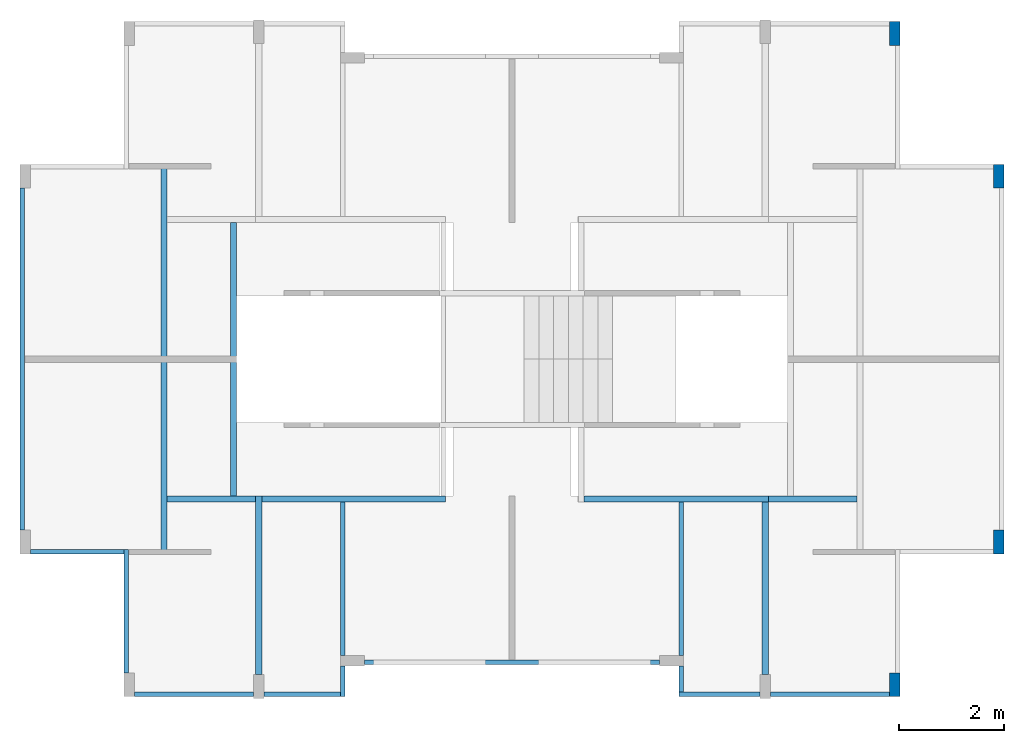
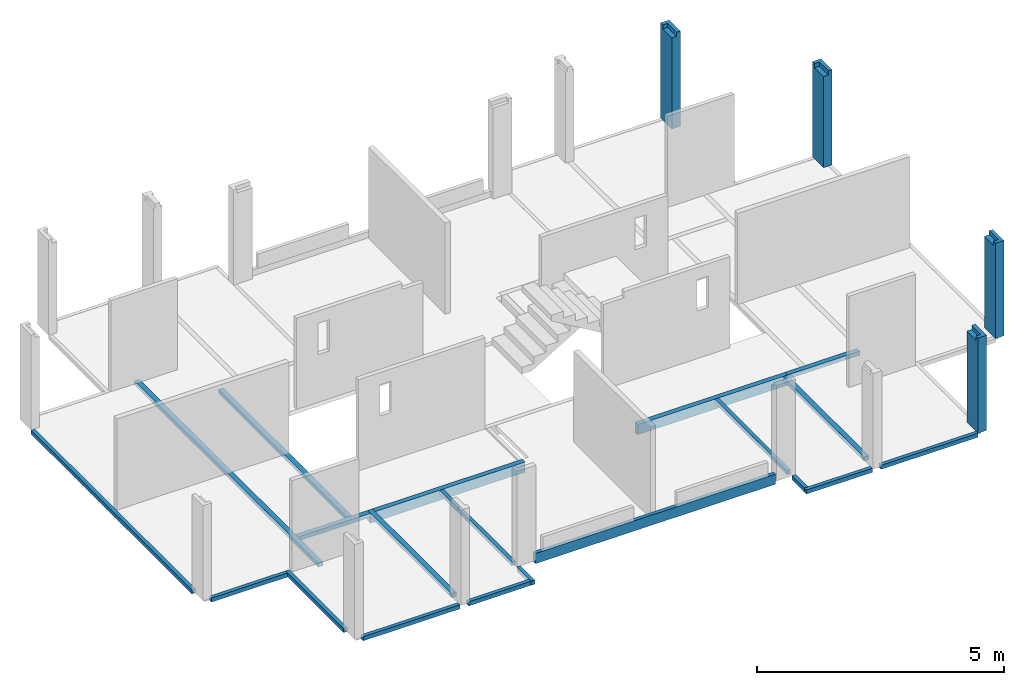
# One storey, part 1 of 6: 16 beams, 4 columns.
"""IFC4 building model written with IfcOpenShell, lengths in metres."""

from ifc_helpers import new_model, entity, si_unit, converted_unit, derived_unit, direction, frame, origin, place, context, subcontext, project, spatial, indexed_curve, outline, extrude, polygons, source, transform, mapped, material, type_object, type_shapes, element, save


model = new_model("IFC4")

# Units and contexts
model_context = context("Model", 3, precision=1e-05, world=origin(), true_north=direction((6.123031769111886e-17, 1.0)))
body_context = subcontext(model_context, "Body", "Model", "MODEL_VIEW")
ifc_project = project(units=[si_unit("LENGTHUNIT", "METRE"), si_unit("AREAUNIT", "SQUARE_METRE"), si_unit("VOLUMEUNIT", "CUBIC_METRE"), converted_unit("PLANEANGLEUNIT", "DEGREE", entity("IfcRatioMeasure", 0.017453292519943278), si_unit("PLANEANGLEUNIT", "RADIAN"), dimensions=[0, 0, 0, 0, 0, 0, 0]), si_unit("MASSUNIT", "GRAM", prefix="KILO"), derived_unit("MASSDENSITYUNIT", [(si_unit("MASSUNIT", "GRAM", prefix="KILO"), 1), (si_unit("LENGTHUNIT", "METRE"), -3)]), derived_unit("IONCONCENTRATIONUNIT", [(si_unit("MASSUNIT", "GRAM", prefix="KILO"), 1), (si_unit("LENGTHUNIT", "METRE"), -3)]), derived_unit("MOMENTOFINERTIAUNIT", [(si_unit("LENGTHUNIT", "METRE"), 4)]), si_unit("TIMEUNIT", "SECOND"), si_unit("FREQUENCYUNIT", "HERTZ"), si_unit("THERMODYNAMICTEMPERATUREUNIT", "DEGREE_CELSIUS"), derived_unit("THERMALTRANSMITTANCEUNIT", [(si_unit("MASSUNIT", "GRAM", prefix="KILO"), 1), (si_unit("THERMODYNAMICTEMPERATUREUNIT", "KELVIN"), -1), (si_unit("TIMEUNIT", "SECOND"), -3)]), derived_unit("THERMALCONDUCTANCEUNIT", [(si_unit("MASSUNIT", "GRAM", prefix="KILO"), 1), (si_unit("THERMODYNAMICTEMPERATUREUNIT", "KELVIN"), -1), (si_unit("TIMEUNIT", "SECOND"), -3), (si_unit("LENGTHUNIT", "METRE"), 1)]), derived_unit("VOLUMETRICFLOWRATEUNIT", [(si_unit("LENGTHUNIT", "METRE"), 3), (si_unit("TIMEUNIT", "SECOND"), -1)]), derived_unit("MASSFLOWRATEUNIT", [(si_unit("MASSUNIT", "GRAM", prefix="KILO"), 1), (si_unit("TIMEUNIT", "SECOND"), -1)]), derived_unit("ROTATIONALFREQUENCYUNIT", [(si_unit("TIMEUNIT", "SECOND"), -1)]), si_unit("ELECTRICCURRENTUNIT", "AMPERE"), si_unit("ELECTRICVOLTAGEUNIT", "VOLT"), si_unit("POWERUNIT", "WATT"), si_unit("FORCEUNIT", "NEWTON", prefix="KILO"), si_unit("ILLUMINANCEUNIT", "LUX"), si_unit("LUMINOUSFLUXUNIT", "LUMEN"), si_unit("LUMINOUSINTENSITYUNIT", "CANDELA"), derived_unit("USERDEFINED", [(si_unit("MASSUNIT", "GRAM", prefix="KILO"), -1), (si_unit("LENGTHUNIT", "METRE"), -2), (si_unit("TIMEUNIT", "SECOND"), 3), (si_unit("LUMINOUSFLUXUNIT", "LUMEN"), 1)]), derived_unit("USERDEFINED", [(si_unit("MASSUNIT", "GRAM", prefix="KILO"), 1), (si_unit("TIMEUNIT", "SECOND"), -3), (si_unit("LENGTHUNIT", "METRE"), 3), (si_unit("ELECTRICCURRENTUNIT", "AMPERE"), -2)]), derived_unit("SOUNDPOWERUNIT", [(si_unit("MASSUNIT", "GRAM", prefix="KILO"), 1), (si_unit("TIMEUNIT", "SECOND"), -3), (si_unit("LENGTHUNIT", "METRE"), 2)]), derived_unit("SOUNDPRESSUREUNIT", [(si_unit("MASSUNIT", "GRAM", prefix="KILO"), 1), (si_unit("LENGTHUNIT", "METRE"), -1), (si_unit("TIMEUNIT", "SECOND"), -2)]), derived_unit("LINEARVELOCITYUNIT", [(si_unit("LENGTHUNIT", "METRE"), 1), (si_unit("TIMEUNIT", "SECOND"), -1)]), si_unit("PRESSUREUNIT", "PASCAL"), derived_unit("USERDEFINED", [(si_unit("MASSUNIT", "GRAM", prefix="KILO"), 1), (si_unit("LENGTHUNIT", "METRE"), -2), (si_unit("TIMEUNIT", "SECOND"), -2)]), derived_unit("LINEARFORCEUNIT", [(si_unit("MASSUNIT", "GRAM", prefix="KILO"), 1), (si_unit("TIMEUNIT", "SECOND"), -2)]), derived_unit("PLANARFORCEUNIT", [(si_unit("MASSUNIT", "GRAM", prefix="KILO"), 1), (si_unit("LENGTHUNIT", "METRE"), -1), (si_unit("TIMEUNIT", "SECOND"), -2)]), derived_unit("SPECIFICHEATCAPACITYUNIT", [(si_unit("THERMODYNAMICTEMPERATUREUNIT", "KELVIN"), -1), (si_unit("LENGTHUNIT", "METRE"), 2), (si_unit("TIMEUNIT", "SECOND"), -2)]), derived_unit("HEATINGVALUEUNIT", [(si_unit("LENGTHUNIT", "METRE"), 2), (si_unit("TIMEUNIT", "SECOND"), -2)]), derived_unit("VAPORPERMEABILITYUNIT", [(si_unit("LENGTHUNIT", "METRE"), -1), (si_unit("TIMEUNIT", "SECOND"), 1)]), derived_unit("DYNAMICVISCOSITYUNIT", [(si_unit("MASSUNIT", "GRAM", prefix="KILO"), 1), (si_unit("TIMEUNIT", "SECOND"), -1), (si_unit("LENGTHUNIT", "METRE"), -1)]), derived_unit("THERMALEXPANSIONCOEFFICIENTUNIT", [(si_unit("THERMODYNAMICTEMPERATUREUNIT", "KELVIN"), -1)]), derived_unit("MODULUSOFELASTICITYUNIT", [(si_unit("MASSUNIT", "GRAM", prefix="KILO"), 1), (si_unit("LENGTHUNIT", "METRE"), -1), (si_unit("TIMEUNIT", "SECOND"), -2)]), derived_unit("ISOTHERMALMOISTURECAPACITYUNIT", [(si_unit("LENGTHUNIT", "METRE"), 3), (si_unit("MASSUNIT", "GRAM", prefix="KILO"), -1)]), derived_unit("MOISTUREDIFFUSIVITYUNIT", [(si_unit("TIMEUNIT", "SECOND"), -1), (si_unit("LENGTHUNIT", "METRE"), 2)])], contexts=[model_context])

# Site, building, storey
site_placement = place(None, origin())
site = spatial("IfcSite", under=ifc_project, at=site_placement, Name="Default", CompositionType="ELEMENT")
building_placement = place(site_placement, origin())
building = spatial("IfcBuilding", under=site, at=building_placement, Name="Las nubes", CompositionType="ELEMENT")
storey_placement = place(building_placement, frame((0.0, 0.0, 4.700000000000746)))
storey = spatial("IfcBuildingStorey", under=building, at=storey_placement, Name="PISO 3", CompositionType="ELEMENT", Elevation=4.700000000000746)

# Columns
ifc_material_1 = material(Name="Concrete, Cast-in-Place gray", Category="Materials")
column_type_1 = type_object("IfcColumnType", Name="M_Concrete-Rectangular-Column:300 x 450mm", PredefinedType="COLUMN", material=ifc_material_1)
shared_shape_1 = source(origin(), body_context, "Body", "Tessellation", [
    polygons([(-2.1657342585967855e-15, 5.414335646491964e-16, -5.414335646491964e-16), (-2.1657342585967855e-15, 0.45000000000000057, -5.414335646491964e-16), (0.19999999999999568, 0.45000000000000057, -5.414335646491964e-16), (0.19999999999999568, 5.414335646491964e-16, -5.414335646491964e-16), (-2.1657342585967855e-15, 5.414335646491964e-16, 2.250000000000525), (-2.1657342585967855e-15, 0.36499999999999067, 2.250000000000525), (-2.1657342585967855e-15, 0.36499999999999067, 2.3500000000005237), (-2.1657342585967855e-15, 0.45000000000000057, 2.3500000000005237), (0.19999999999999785, 5.414335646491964e-16, 2.250000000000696), (0.19999999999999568, 5.414335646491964e-16, 2.3500000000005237), (0.11499999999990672, 5.414335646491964e-16, 2.3500000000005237), (0.11499999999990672, 5.414335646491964e-16, 2.250000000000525), (0.19999999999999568, 0.45000000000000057, 2.3500000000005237), (0.11499999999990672, 0.36499999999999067, 2.3500000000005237), (0.11499999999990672, 0.36499999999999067, 2.250000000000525)], [[[1, 2, 3, 4]], [[2, 1, 5, 6, 7, 8]], [[1, 4, 9, 10, 11, 12, 5]], [[4, 3, 13, 10, 9]], [[3, 2, 8, 13]], [[10, 13, 8, 7, 14, 11]], [[12, 15, 6, 5]], [[14, 15, 12, 11]], [[15, 14, 7, 6]]], closed=True),
])
type_shapes(column_type_1, [shared_shape_1])
column_1_placement = place(storey_placement, frame((18.472500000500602, -3.175000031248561, 0.0)))
element("IfcColumn", 1, at=column_1_placement, inside=storey, type_object=column_type_1, material=ifc_material_1, Name="M_Concrete-Rectangular-Column:300 x 450mm", ObjectType="M_Concrete-Rectangular-Column:300 x 450mm", PredefinedType="COLUMN", context=body_context, shape_type="MappedRepresentation", body=[
    mapped(shared_shape_1, transform((0.0, 0.0, 0.0), scale=1.0)),
])
column_type_2 = type_object("IfcColumnType", Name="M_Concrete-Rectangular-Column:300 x 450mm", PredefinedType="COLUMN", material=ifc_material_1)
shared_shape_2 = source(origin(), body_context, "Body", "Tessellation", [
    polygons([(0.0, 0.0, -5.414335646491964e-16), (0.0, 0.45, -5.414335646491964e-16), (0.2, 0.45, -5.414335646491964e-16), (0.2, 0.0, -5.414335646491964e-16), (0.0, 0.0, 2.250000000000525), (0.0, 0.3649999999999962, 2.250000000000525), (0.0, 0.36499999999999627, 2.3500000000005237), (0.0, 0.45, 2.3500000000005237), (0.2, 0.0, 2.250000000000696), (0.2, 0.0, 2.3500000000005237), (0.11499999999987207, 0.0, 2.3500000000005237), (0.11499999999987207, 0.0, 2.250000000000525), (0.2, 0.45, 2.3500000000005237), (0.11499999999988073, 0.3649999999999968, 2.3500000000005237), (0.11499999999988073, 0.3649999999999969, 2.250000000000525)], [[[1, 2, 3, 4]], [[2, 1, 5, 6, 7, 8]], [[1, 4, 9, 10, 11, 12, 5]], [[4, 3, 13, 10, 9]], [[3, 2, 8, 13]], [[10, 13, 8, 7, 14, 11]], [[15, 6, 5, 12]], [[15, 14, 7, 6]], [[14, 15, 12, 11]]], closed=True),
])
type_shapes(column_type_2, [shared_shape_2])
column_2_placement = place(storey_placement, frame((16.497500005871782, -0.46000002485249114, 0.0)))
element("IfcColumn", 2, at=column_2_placement, inside=storey, type_object=column_type_2, material=ifc_material_1, Name="M_Concrete-Rectangular-Column:300 x 450mm", ObjectType="M_Concrete-Rectangular-Column:300 x 450mm", PredefinedType="COLUMN", context=body_context, shape_type="MappedRepresentation", body=[
    mapped(shared_shape_2, transform((0.0, 0.0, 0.0), scale=1.0)),
])
column_type_3 = type_object("IfcColumnType", Name="M_Concrete-Rectangular-Column:300 x 450mm", PredefinedType="COLUMN", material=ifc_material_1)
shared_shape_3 = source(origin(), body_context, "Body", "Tessellation", [
    polygons([(2.1657342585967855e-15, 2.1657342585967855e-15, -5.414335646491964e-16), (6.497202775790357e-15, 0.4500000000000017, -5.414335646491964e-16), (0.20000000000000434, 0.45000000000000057, -5.414335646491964e-16), (0.20000000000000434, 0.0, -5.414335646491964e-16), (2.1657342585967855e-15, 2.1657342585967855e-15, 2.3500000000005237), (2.1657342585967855e-15, 0.08500000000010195, 2.3500000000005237), (2.1657342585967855e-15, 0.08500000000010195, 2.250000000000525), (6.497202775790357e-15, 0.4500000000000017, 2.250000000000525), (0.11499999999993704, 0.4500000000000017, 2.250000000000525), (0.11499999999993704, 0.4500000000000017, 2.3500000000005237), (0.2000000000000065, 0.4499999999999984, 2.3500000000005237), (0.2000000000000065, 0.45000000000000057, 2.250000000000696), (0.20000000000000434, 0.0, 2.3500000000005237), (0.11499999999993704, 0.08500000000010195, 2.3500000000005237), (0.11499999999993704, 0.08500000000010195, 2.250000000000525)], [[[1, 2, 3, 4]], [[2, 1, 5, 6, 7, 8]], [[3, 2, 8, 9, 10, 11, 12]], [[4, 3, 12, 11, 13]], [[1, 4, 13, 5]], [[13, 11, 10, 14, 6, 5]], [[7, 15, 9, 8]], [[14, 15, 7, 6]], [[15, 14, 10, 9]]], closed=True),
])
type_shapes(column_type_3, [shared_shape_3])
column_3_placement = place(storey_placement, frame((18.472500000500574, -10.125000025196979, 0.0)))
element("IfcColumn", 3, at=column_3_placement, inside=storey, type_object=column_type_3, material=ifc_material_1, Name="M_Concrete-Rectangular-Column:300 x 450mm", ObjectType="M_Concrete-Rectangular-Column:300 x 450mm", PredefinedType="COLUMN", context=body_context, shape_type="MappedRepresentation", body=[
    mapped(shared_shape_3, transform((0.0, 0.0, 0.0), scale=1.0)),
])
column_type_4 = type_object("IfcColumnType", Name="M_Concrete-Rectangular-Column:300 x 450mm", PredefinedType="COLUMN", material=ifc_material_1)
shared_shape_4 = source(origin(), body_context, "Body", "Tessellation", [
    polygons([(0.0, 0.0, -5.414335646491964e-16), (2.1657342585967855e-15, 0.4499999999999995, -5.414335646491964e-16), (0.20000000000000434, 0.4499999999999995, -5.414335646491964e-16), (0.2, -2.1657342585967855e-15, -5.414335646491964e-16), (0.0, 0.0, 2.3500000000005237), (0.0, 0.08500000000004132, 2.3500000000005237), (2.1657342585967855e-15, 0.08500000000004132, 2.250000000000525), (6.497202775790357e-15, 0.4499999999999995, 2.250000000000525), (0.11499999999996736, 0.4499999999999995, 2.250000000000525), (0.11499999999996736, 0.4499999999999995, 2.3500000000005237), (0.2, 0.44999999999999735, 2.3500000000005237), (0.20000000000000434, 0.4499999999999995, 2.250000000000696), (0.2, -2.1657342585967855e-15, 2.3500000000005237), (0.11499999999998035, 0.08500000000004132, 2.3500000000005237), (0.11499999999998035, 0.08500000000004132, 2.250000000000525)], [[[1, 2, 3, 4]], [[2, 1, 5, 6, 7, 8]], [[3, 2, 8, 9, 10, 11, 12]], [[4, 3, 12, 11, 13]], [[1, 4, 13, 5]], [[13, 11, 10, 14, 6, 5]], [[15, 9, 8, 7]], [[14, 15, 7, 6]], [[15, 14, 10, 9]]], closed=True),
])
type_shapes(column_type_4, [shared_shape_4])
column_4_placement = place(storey_placement, frame((16.497500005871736, -12.84000003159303, 0.0)))
element("IfcColumn", 4, at=column_4_placement, inside=storey, type_object=column_type_4, material=ifc_material_1, Name="M_Concrete-Rectangular-Column:300 x 450mm", ObjectType="M_Concrete-Rectangular-Column:300 x 450mm", PredefinedType="COLUMN", context=body_context, shape_type="MappedRepresentation", body=[
    mapped(shared_shape_4, transform((0.0, 0.0, 0.0), scale=1.0)),
])

# Beams
ifc_material_2 = material(Name="Concrete, Cast In Situ", Category="Materials")
beam_type_1 = type_object("IfcBeamType", Name="M_Concrete-Rectangular Beam:(0.085x0.25)", PredefinedType="BEAM", material=ifc_material_2)
shared_shape_5 = source(origin(), body_context, "Body", "SweptSolid", [
    extrude(outline(indexed_curve([(-0.12500000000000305, -0.04249999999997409), (0.12499999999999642, -0.04250000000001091), (0.12500000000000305, 0.04249999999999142), (-0.12499999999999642, 0.042500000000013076), (-0.12500000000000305, -0.04249999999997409)], self_intersect=False)), frame((6.517499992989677, -12.18250002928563, 4.725000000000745), z_axis=(1.0, 0.0, 0.0), x_axis=(0.0, 0.0, -1.0)), (0.0, 0.0, 1.0), 5.6100000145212),
])
type_shapes(beam_type_1, [shared_shape_5])
beam_1_placement = place(storey_placement, frame((0.0, 0.0, -4.700000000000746)))
element("IfcBeam", 5, at=beam_1_placement, inside=storey, type_object=beam_type_1, material=ifc_material_2, Name="M_Concrete-Rectangular Beam:(0.085x0.25)", ObjectType="M_Concrete-Rectangular Beam:(0.085x0.25)", PredefinedType="BEAM", context=body_context, shape_type="MappedRepresentation", body=[
    mapped(shared_shape_5, transform((0.0, 0.0, 0.0), scale=1.0)),
])
beam_type_2 = type_object("IfcBeamType", Name="M_Concrete-Rectangular Beam:(0.085x0.10)", PredefinedType="BEAM", material=ifc_material_2)
shared_shape_6 = source(origin(), body_context, "Body", "SweptSolid", [
    extrude(outline(indexed_curve([(-0.04250000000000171, -0.05), (0.04250000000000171, -0.05), (0.04250000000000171, 0.05), (-0.04250000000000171, 0.05), (-0.04250000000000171, -0.05)], self_intersect=False)), frame((1.9899999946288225, -12.390000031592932, 4.650000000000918), z_axis=(0.0, 1.0, 0.0), x_axis=(-1.0, 0.0, 0.0)), (0.0, 0.0, 1.0), 2.3500051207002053),
])
type_shapes(beam_type_2, [shared_shape_6])
beam_2_placement = place(storey_placement, frame((0.0, 0.0, -4.700000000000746)))
element("IfcBeam", 6, at=beam_2_placement, inside=storey, type_object=beam_type_2, material=ifc_material_2, Name="M_Concrete-Rectangular Beam:(0.085x0.10)", ObjectType="M_Concrete-Rectangular Beam:(0.085x0.10)", PredefinedType="BEAM", context=body_context, shape_type="MappedRepresentation", body=[
    mapped(shared_shape_6, transform((0.0, 0.0, 0.0), scale=1.0)),
])
beam_type_3 = type_object("IfcBeamType", Name="M_Concrete-Rectangular Beam:(0.085x0.10)", PredefinedType="BEAM", material=ifc_material_2)
shared_shape_7 = source(origin(), body_context, "Body", "SweptSolid", [
    extrude(outline(indexed_curve([(-0.050000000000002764, -0.04249999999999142), (0.04999999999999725, -0.042500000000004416), (0.050000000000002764, 0.04249999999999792), (-0.04999999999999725, 0.042500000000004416), (-0.050000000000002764, -0.04249999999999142)], self_intersect=False)), frame((1.9474999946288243, -10.082494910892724, 4.650000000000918), z_axis=(-1.0, 0.0, 0.0), x_axis=(0.0, 0.0, -1.0)), (0.0, 0.0, 1.0), 1.7749999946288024),
])
type_shapes(beam_type_3, [shared_shape_7])
beam_3_placement = place(storey_placement, frame((0.0, 0.0, -4.700000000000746)))
element("IfcBeam", 7, at=beam_3_placement, inside=storey, type_object=beam_type_3, material=ifc_material_2, Name="M_Concrete-Rectangular Beam:(0.085x0.10)", ObjectType="M_Concrete-Rectangular Beam:(0.085x0.10)", PredefinedType="BEAM", context=body_context, shape_type="MappedRepresentation", body=[
    mapped(shared_shape_7, transform((0.0, 0.0, 0.0), scale=1.0)),
])
beam_type_4 = type_object("IfcBeamType", Name="M_Concrete-Rectangular Beam:(0.085x0.10)", PredefinedType="BEAM", material=ifc_material_2)
shared_shape_8 = source(origin(), body_context, "Body", "SweptSolid", [
    extrude(outline(indexed_curve([(-0.04250000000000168, -0.05), (0.04250000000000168, -0.05), (0.0425000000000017, 0.05), (-0.04250000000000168, 0.05), (-0.04250000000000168, -0.05)], self_intersect=False)), frame((0.01500000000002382, -9.674994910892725, 4.650000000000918), z_axis=(0.0, 1.0, 0.0), x_axis=(-1.0, 0.0, 0.0)), (0.0, 0.0, 1.0), 6.499994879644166),
])
type_shapes(beam_type_4, [shared_shape_8])
beam_4_placement = place(storey_placement, frame((0.0, 0.0, -4.700000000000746)))
element("IfcBeam", 8, at=beam_4_placement, inside=storey, type_object=beam_type_4, material=ifc_material_2, Name="M_Concrete-Rectangular Beam:(0.085x0.10)", ObjectType="M_Concrete-Rectangular Beam:(0.085x0.10)", PredefinedType="BEAM", context=body_context, shape_type="MappedRepresentation", body=[
    mapped(shared_shape_8, transform((0.0, 0.0, 0.0), scale=1.0)),
])
beam_type_5 = type_object("IfcBeamType", Name="M_Concrete-Rectangular Beam:(0.085x0.10)", PredefinedType="BEAM", material=ifc_material_2)
shared_shape_9 = source(origin(), body_context, "Body", "SweptSolid", [
    extrude(outline(indexed_curve([(-0.050000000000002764, -0.04249999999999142), (0.04999999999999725, -0.042500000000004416), (0.050000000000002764, 0.04249999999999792), (-0.04999999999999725, 0.042500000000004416), (-0.050000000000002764, -0.04249999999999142)], self_intersect=False)), frame((14.235000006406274, -12.797498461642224, 4.650000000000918), z_axis=(1.0, 0.0, 0.0), x_axis=(0.0, 0.0, -1.0)), (0.0, 0.0, 1.0), 2.2624999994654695),
    extrude(outline(indexed_curve([(-0.05000000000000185, -0.04249999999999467), (0.04999999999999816, -0.042500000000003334), (0.05000000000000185, 0.042499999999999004), (-0.04999999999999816, 0.042500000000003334), (-0.05000000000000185, -0.04249999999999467)], self_intersect=False)), frame((12.49250000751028, -12.797498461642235, 4.650000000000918), z_axis=(1.0, 0.0, 0.0), x_axis=(0.0, 0.0, -1.0)), (0.0, 0.0, 1.0), 1.5424999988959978),
])
type_shapes(beam_type_5, [shared_shape_9])
beam_5_placement = place(storey_placement, frame((0.0, 0.0, -4.700000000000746)))
element("IfcBeam", 9, at=beam_5_placement, inside=storey, type_object=beam_type_5, material=ifc_material_2, Name="M_Concrete-Rectangular Beam:(0.085x0.10)", ObjectType="M_Concrete-Rectangular Beam:(0.085x0.10)", PredefinedType="BEAM", context=body_context, shape_type="MappedRepresentation", body=[
    mapped(shared_shape_9, transform((0.0, 0.0, 0.0), scale=1.0)),
])
beam_type_6 = type_object("IfcBeamType", Name="M_Concrete-Rectangular Beam:(0.115x0.25)", PredefinedType="BEAM", material=ifc_material_2)
shared_shape_10 = source(origin(), body_context, "Body", "SweptSolid", [
    extrude(outline(indexed_curve([(-0.16111111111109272, -1.5972222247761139), (-0.011111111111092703, -1.5972222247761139), (-0.011111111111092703, -1.4822222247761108), (0.08888888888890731, -1.4822222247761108), (0.08888888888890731, 0.01777777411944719), (0.08888888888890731, 0.1027777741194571), (0.08888888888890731, 2.012777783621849), (-0.011111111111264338, 2.012777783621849), (-0.16111111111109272, 2.012777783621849), (-0.16111111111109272, -1.5972222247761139)], self_intersect=False)), frame((6.049722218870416, -9.14000012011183, 4.61111111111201), z_axis=(0.0, 1.0, 0.0), x_axis=(0.0, 0.0, 1.0)), (0.0, 0.0, 1.0), 0.1150000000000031),
])
type_shapes(beam_type_6, [shared_shape_10])
beam_6_placement = place(storey_placement, frame((0.0, 0.0, -4.700000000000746)))
element("IfcBeam", 10, at=beam_6_placement, inside=storey, type_object=beam_type_6, material=ifc_material_2, Name="M_Concrete-Rectangular Beam:(0.115x0.25)", ObjectType="M_Concrete-Rectangular Beam:(0.115x0.25)", PredefinedType="BEAM", context=body_context, shape_type="MappedRepresentation", body=[
    mapped(shared_shape_10, transform((0.0, 0.0, 0.0), scale=1.0)),
])
beam_type_7 = type_object("IfcBeamType", Name="M_Concrete-Rectangular Beam:(0.115x0.25)", PredefinedType="BEAM", material=ifc_material_2)
shared_shape_11 = source(origin(), body_context, "Body", "SweptSolid", [
    extrude(outline(indexed_curve([(-0.12500000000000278, -0.057499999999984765), (0.12499999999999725, -0.05750000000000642), (0.12500000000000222, 0.05749999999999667), (-0.1249999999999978, 0.0575000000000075), (-0.12500000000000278, -0.057499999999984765)], self_intersect=False)), frame((10.692499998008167, -9.082500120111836, 4.575000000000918), z_axis=(1.0, 0.0, 0.0), x_axis=(0.0, 0.0, -1.0)), (0.0, 0.0, 1.0), 3.5000000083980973),
])
type_shapes(beam_type_7, [shared_shape_11])
beam_7_placement = place(storey_placement, frame((0.0, 0.0, -4.700000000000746)))
element("IfcBeam", 11, at=beam_7_placement, inside=storey, type_object=beam_type_7, material=ifc_material_2, Name="M_Concrete-Rectangular Beam:(0.115x0.25)", ObjectType="M_Concrete-Rectangular Beam:(0.115x0.25)", PredefinedType="BEAM", context=body_context, shape_type="MappedRepresentation", body=[
    mapped(shared_shape_11, transform((0.0, 0.0, 0.0), scale=1.0)),
])
beam_type_8 = type_object("IfcBeamType", Name="M_Concrete-Rectangular Beam:(0.115x0.10)", PredefinedType="BEAM", material=ifc_material_2)
shared_shape_12 = source(origin(), body_context, "Body", "SweptSolid", [
    extrude(outline(indexed_curve([(-0.05750000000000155, -0.05), (0.05750000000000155, -0.05), (0.05750000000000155, 0.05), (-0.05750000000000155, 0.05), (-0.05750000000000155, -0.05)], self_intersect=False)), frame((2.710001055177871, -10.140000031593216, 4.650000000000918), z_axis=(0.0, 1.0, 0.0), x_axis=(-1.0, 0.0, 0.0)), (0.0, 0.0, 1.0), 7.430000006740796),
])
type_shapes(beam_type_8, [shared_shape_12])
beam_8_placement = place(storey_placement, frame((0.0, 0.0, -4.700000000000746)))
element("IfcBeam", 12, at=beam_8_placement, inside=storey, type_object=beam_type_8, material=ifc_material_2, Name="M_Concrete-Rectangular Beam:(0.115x0.10)", ObjectType="M_Concrete-Rectangular Beam:(0.115x0.10)", PredefinedType="BEAM", context=body_context, shape_type="MappedRepresentation", body=[
    mapped(shared_shape_12, transform((0.0, 0.0, 0.0), scale=1.0)),
])
beam_type_9 = type_object("IfcBeamType", Name="M_Concrete-Rectangular Beam:(0.115x0.10)", PredefinedType="BEAM", material=ifc_material_2)
shared_shape_13 = source(origin(), body_context, "Body", "SweptSolid", [
    extrude(outline(indexed_curve([(-0.05750000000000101, -0.05), (0.05750000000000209, -0.05), (0.05750000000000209, 0.05), (-0.05750000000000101, 0.05), (-0.05750000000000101, -0.05)], self_intersect=False)), frame((4.509999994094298, -12.42000003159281, 4.650000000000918), z_axis=(0.0, 1.0, 0.0), x_axis=(-1.0, 0.0, 0.0)), (0.0, 0.0, 1.0), 3.3950000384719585),
])
type_shapes(beam_type_9, [shared_shape_13])
beam_9_placement = place(storey_placement, frame((0.0, 0.0, -4.700000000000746)))
element("IfcBeam", 13, at=beam_9_placement, inside=storey, type_object=beam_type_9, material=ifc_material_2, Name="M_Concrete-Rectangular Beam:(0.115x0.10)", ObjectType="M_Concrete-Rectangular Beam:(0.115x0.10)", PredefinedType="BEAM", context=body_context, shape_type="MappedRepresentation", body=[
    mapped(shared_shape_13, transform((0.0, 0.0, 0.0), scale=1.0)),
])
beam_type_10 = type_object("IfcBeamType", Name="M_Concrete-Rectangular Beam:(0.115x0.10)", PredefinedType="BEAM", material=ifc_material_2)
shared_shape_14 = source(origin(), body_context, "Body", "SweptSolid", [
    extrude(outline(indexed_curve([(-0.05750000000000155, -0.05), (0.05750000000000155, -0.05), (0.05750000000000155, 0.05), (-0.05750000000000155, 0.05), (-0.05750000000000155, -0.05)], self_intersect=False)), frame((4.029999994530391, -9.025000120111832, 4.650000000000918), z_axis=(0.0, 1.0, 0.0), x_axis=(-1.0, 0.0, 0.0)), (0.0, 0.0, 1.0), 5.200000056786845),
])
type_shapes(beam_type_10, [shared_shape_14])
beam_10_placement = place(storey_placement, frame((0.0, 0.0, -4.700000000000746)))
element("IfcBeam", 14, at=beam_10_placement, inside=storey, type_object=beam_type_10, material=ifc_material_2, Name="M_Concrete-Rectangular Beam:(0.115x0.10)", ObjectType="M_Concrete-Rectangular Beam:(0.115x0.10)", PredefinedType="BEAM", context=body_context, shape_type="MappedRepresentation", body=[
    mapped(shared_shape_14, transform((0.0, 0.0, 0.0), scale=1.0)),
])
beam_type_11 = type_object("IfcBeamType", Name="M_Concrete-Rectangular Beam:(0.115x0.10)", PredefinedType="BEAM", material=ifc_material_2)
shared_shape_15 = source(origin(), body_context, "Body", "SweptSolid", [
    extrude(outline(indexed_curve([(-0.05000000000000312, -0.057499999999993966), (0.049999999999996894, -0.05750000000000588), (0.05000000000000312, 0.0574999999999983), (-0.049999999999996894, 0.057500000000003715), (-0.05000000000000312, -0.057499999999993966)], self_intersect=False)), frame((4.4524999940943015, -9.082499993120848, 4.650000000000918), z_axis=(-1.0, 0.0, 0.0), x_axis=(0.0, 0.0, -1.0)), (0.0, 0.0, 1.0), 1.6849989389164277),
])
type_shapes(beam_type_11, [shared_shape_15])
beam_11_placement = place(storey_placement, frame((0.0, 0.0, -4.700000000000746)))
element("IfcBeam", 15, at=beam_11_placement, inside=storey, type_object=beam_type_11, material=ifc_material_2, Name="M_Concrete-Rectangular Beam:(0.115x0.10)", ObjectType="M_Concrete-Rectangular Beam:(0.115x0.10)", PredefinedType="BEAM", context=body_context, shape_type="MappedRepresentation", body=[
    mapped(shared_shape_15, transform((0.0, 0.0, 0.0), scale=1.0)),
])
beam_type_12 = type_object("IfcBeamType", Name="M_Concrete-Rectangular Beam:(0.115x0.10)", PredefinedType="BEAM", material=ifc_material_2)
shared_shape_16 = source(origin(), body_context, "Body", "SweptSolid", [
    extrude(outline(indexed_curve([(-0.05000000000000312, -0.057499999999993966), (0.049999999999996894, -0.0575000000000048), (0.05000000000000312, 0.0574999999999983), (-0.049999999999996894, 0.057500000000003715), (-0.05000000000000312, -0.057499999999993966)], self_intersect=False)), frame((14.192500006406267, -9.082499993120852, 4.650000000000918), z_axis=(1.0, 0.0, 0.0), x_axis=(0.0, 0.0, -1.0)), (0.0, 0.0, 1.0), 1.6849989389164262),
])
type_shapes(beam_type_12, [shared_shape_16])
beam_12_placement = place(storey_placement, frame((0.0, 0.0, -4.700000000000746)))
element("IfcBeam", 16, at=beam_12_placement, inside=storey, type_object=beam_type_12, material=ifc_material_2, Name="M_Concrete-Rectangular Beam:(0.115x0.10)", ObjectType="M_Concrete-Rectangular Beam:(0.115x0.10)", PredefinedType="BEAM", context=body_context, shape_type="MappedRepresentation", body=[
    mapped(shared_shape_16, transform((0.0, 0.0, 0.0), scale=1.0)),
])
beam_type_13 = type_object("IfcBeamType", Name="M_Concrete-Rectangular Beam:(0.085x0.10)", PredefinedType="BEAM", material=ifc_material_2)
shared_shape_17 = source(origin(), body_context, "Body", "SweptSolid", [
    extrude(outline(indexed_curve([(-0.04250000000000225, -0.05), (0.04250000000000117, -0.05), (0.04250000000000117, 0.05), (-0.04250000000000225, 0.05), (-0.04250000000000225, -0.05)], self_intersect=False)), frame((6.1099999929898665, -12.055000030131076, 4.650000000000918), z_axis=(0.0, 1.0, 0.0), x_axis=(-1.0, 0.0, 0.0)), (0.0, 0.0, 1.0), 2.9149999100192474),
    extrude(outline(indexed_curve([(-0.04250000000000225, -0.05), (0.04250000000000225, -0.05), (0.04250000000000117, 0.05), (-0.04250000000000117, 0.05), (-0.04250000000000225, -0.05)], self_intersect=False)), frame((6.109999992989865, -12.840000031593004, 4.650000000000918), z_axis=(0.0, 1.0, 0.0), x_axis=(-1.0, 0.0, 0.0)), (0.0, 0.0, 1.0), 0.585000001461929),
])
type_shapes(beam_type_13, [shared_shape_17])
beam_13_placement = place(storey_placement, frame((0.0, 0.0, -4.700000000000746)))
element("IfcBeam", 17, at=beam_13_placement, inside=storey, type_object=beam_type_13, material=ifc_material_2, Name="M_Concrete-Rectangular Beam:(0.085x0.10)", ObjectType="M_Concrete-Rectangular Beam:(0.085x0.10)", PredefinedType="BEAM", context=body_context, shape_type="MappedRepresentation", body=[
    mapped(shared_shape_17, transform((0.0, 0.0, 0.0), scale=1.0)),
])
beam_type_14 = type_object("IfcBeamType", Name="M_Concrete-Rectangular Beam:(0.085x0.10)", PredefinedType="BEAM", material=ifc_material_2)
shared_shape_18 = source(origin(), body_context, "Body", "SweptSolid", [
    extrude(outline(indexed_curve([(-0.04250000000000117, -0.05), (0.042499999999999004, -0.05), (0.04250000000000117, 0.05), (-0.042500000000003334, 0.05), (-0.04250000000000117, -0.05)], self_intersect=False)), frame((12.535000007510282, -12.755000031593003, 4.650000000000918), z_axis=(0.0, 1.0, 0.0), x_axis=(-1.0, 0.0, 0.0)), (0.0, 0.0, 1.0), 0.5000000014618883),
    extrude(outline(indexed_curve([(-0.042499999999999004, -0.05), (0.042500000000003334, -0.05), (0.042500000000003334, 0.05), (-0.042499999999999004, 0.05), (-0.042499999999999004, -0.05)], self_intersect=False)), frame((12.535000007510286, -12.055000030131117, 4.650000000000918), z_axis=(0.0, 1.0, 0.0), x_axis=(-1.0, 0.0, 0.0)), (0.0, 0.0, 1.0), 2.914999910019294),
])
type_shapes(beam_type_14, [shared_shape_18])
beam_14_placement = place(storey_placement, frame((0.0, 0.0, -4.700000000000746)))
element("IfcBeam", 18, at=beam_14_placement, inside=storey, type_object=beam_type_14, material=ifc_material_2, Name="M_Concrete-Rectangular Beam:(0.085x0.10)", ObjectType="M_Concrete-Rectangular Beam:(0.085x0.10)", PredefinedType="BEAM", context=body_context, shape_type="MappedRepresentation", body=[
    mapped(shared_shape_18, transform((0.0, 0.0, 0.0), scale=1.0)),
])
beam_type_15 = type_object("IfcBeamType", Name="M_Concrete-Rectangular Beam:(0.115x0.10)", PredefinedType="BEAM", material=ifc_material_2)
shared_shape_19 = source(origin(), body_context, "Body", "SweptSolid", [
    extrude(outline(indexed_curve([(-0.057500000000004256, -0.05), (0.05750000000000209, -0.05), (0.05750000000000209, 0.05), (-0.05750000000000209, 0.05), (-0.057500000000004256, -0.05)], self_intersect=False)), frame((14.135000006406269, -12.420000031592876, 4.650000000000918), z_axis=(0.0, 1.0, 0.0), x_axis=(-1.0, 0.0, 0.0)), (0.0, 0.0, 1.0), 3.2799999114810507),
])
type_shapes(beam_type_15, [shared_shape_19])
beam_15_placement = place(storey_placement, frame((0.0, 0.0, -4.700000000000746)))
element("IfcBeam", 19, at=beam_15_placement, inside=storey, type_object=beam_type_15, material=ifc_material_2, Name="M_Concrete-Rectangular Beam:(0.115x0.10)", ObjectType="M_Concrete-Rectangular Beam:(0.115x0.10)", PredefinedType="BEAM", context=body_context, shape_type="MappedRepresentation", body=[
    mapped(shared_shape_19, transform((0.0, 0.0, 0.0), scale=1.0)),
])
beam_type_16 = type_object("IfcBeamType", Name="M_Concrete-Rectangular Beam:(0.085x0.10)", PredefinedType="BEAM", material=ifc_material_2)
shared_shape_20 = source(origin(), body_context, "Body", "SweptSolid", [
    extrude(outline(indexed_curve([(-0.050000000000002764, -0.04249999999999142), (0.04999999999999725, -0.042500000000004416), (0.050000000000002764, 0.04249999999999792), (-0.04999999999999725, 0.042500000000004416), (-0.050000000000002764, -0.04249999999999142)], self_intersect=False)), frame((4.4099999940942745, -12.797500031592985, 4.650000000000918), z_axis=(-1.0, 0.0, 0.0), x_axis=(0.0, 0.0, -1.0)), (0.0, 0.0, 1.0), 2.262499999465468),
    extrude(outline(indexed_curve([(-0.05000000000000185, -0.04249999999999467), (0.04999999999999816, -0.042500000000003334), (0.05000000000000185, 0.042499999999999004), (-0.04999999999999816, 0.042500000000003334), (-0.05000000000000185, -0.04249999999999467)], self_intersect=False)), frame((6.06749999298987, -12.797500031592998, 4.650000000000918), z_axis=(-1.0, 0.0, 0.0), x_axis=(0.0, 0.0, -1.0)), (0.0, 0.0, 1.0), 1.4574999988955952),
])
type_shapes(beam_type_16, [shared_shape_20])
beam_16_placement = place(storey_placement, frame((0.0, 0.0, -4.700000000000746)))
element("IfcBeam", 20, at=beam_16_placement, inside=storey, type_object=beam_type_16, material=ifc_material_2, Name="M_Concrete-Rectangular Beam:(0.085x0.10)", ObjectType="M_Concrete-Rectangular Beam:(0.085x0.10)", PredefinedType="BEAM", context=body_context, shape_type="MappedRepresentation", body=[
    mapped(shared_shape_20, transform((0.0, 0.0, 0.0), scale=1.0)),
])

save(model, "model.ifc")
